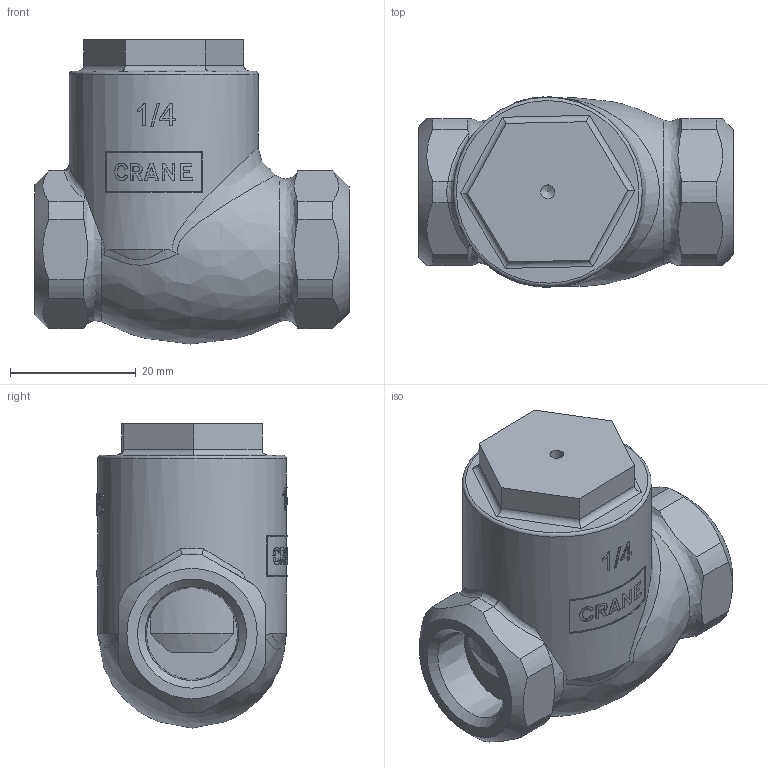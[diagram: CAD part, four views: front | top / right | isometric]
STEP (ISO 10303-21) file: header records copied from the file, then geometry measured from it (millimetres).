
FILE_DESCRIPTION((''),'2;1');
FILE_NAME('P:\Fastrack\53972_CRANE 3D\D142-138\Workspace\Check Valves\D138_1-4in\D138_1-4in.stp','2011-03-03T09:45:17',('btaylor'),(''),'Autodesk Inventor 2008','Autodesk Inventor 2008','');
FILE_SCHEMA(('AUTOMOTIVE_DESIGN { 1 0 10303 214 1 1 1 1 }'));
Length unit declared in the file: millimetre
Products named in the file (1): D138_1-4in
Bounding box: 50 x 30.2 x 48.3 mm (x, y, z)
Volume: 32421.9 mm3; surface area: 9835.3 mm2
Topology: 1 solids, 2 shells, 393 faces, 1098 edges, 731 vertices
Faces by surface type: bspline 209, plane 125, cylinder 47, cone 11, torus 1
Full cylindrical faces by diameter (mm): 30 x1
Entity records: 52005 total; most frequent: CARTESIAN_POINT 43186, ORIENTED_EDGE 2152, EDGE_CURVE 1076, DIRECTION 1030, VERTEX_POINT 722, B_SPLINE_CURVE_WITH_KNOTS 530, EDGE_LOOP 426, VECTOR 402
